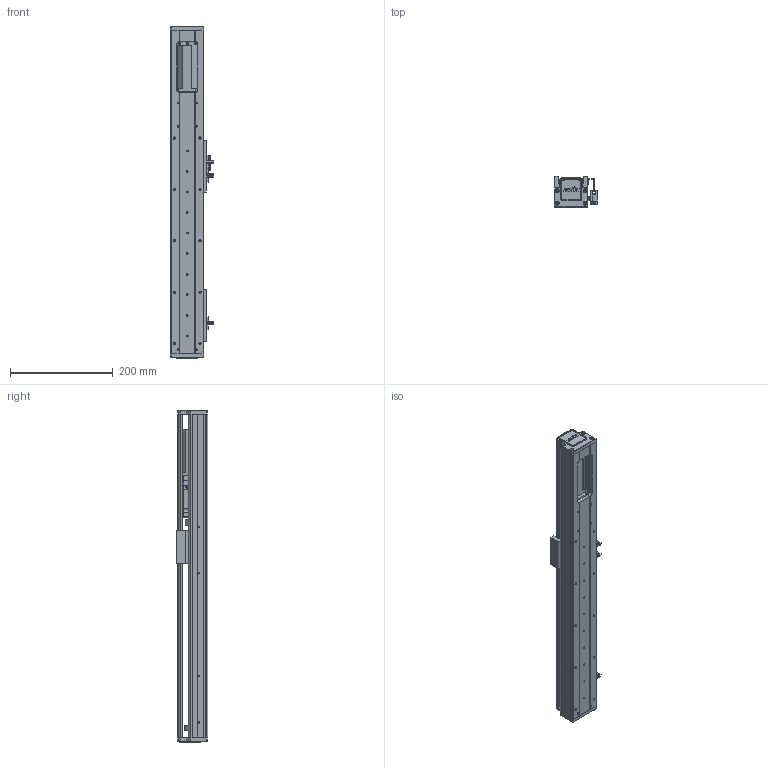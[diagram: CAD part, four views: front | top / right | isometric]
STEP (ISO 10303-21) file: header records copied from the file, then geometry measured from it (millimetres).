
FILE_DESCRIPTION (( 'STEP AP203' ), '1' );
FILE_NAME ('RY60-L1210-300-IK.SLDASM_300.step', '2021-02-22T05:11:52', ( '盈信电脑' ), ( '东莞市道滘镇水果街19号' ), 'SwSTEP 2.0', 'SolidWorks 2012', '' );
FILE_SCHEMA (( 'CONFIG_CONTROL_DESIGN' ));
Length unit declared in the file: millimetre
Products named in the file (12): RY60-L1210-300-IK.SLDASM_300; RY60-内置电机板100W（m3）; 滅袉蝶18-10; RY60綴裔啣; 覜茼ん672; 侂狟100W; RY80俋离覜茼え; RY60臏賑輸; RY60-300倰第裔啣-IK; RY60萇儂傷盓傅釱; 672嫖萇羲壽假蚾釱; RY60-300倰第菁釱-IK
Assembly tree (18 placements, depth 2):
  RY60-L1210-300-IK.SLDASM_300
    RY60-300倰第菁釱-IK
    RY60臏賑輸
    RY60-300倰第裔啣-IK
    RY60萇儂傷盓傅釱
    672嫖萇羲壽假蚾釱  x2
    RY60綴裔啣  x2
    覜茼ん672  x3
    RY80俋离覜茼え
    侂狟100W
    滅袉蝶18-10  x4
    RY60-内置电机板100W（m3）
Bounding box: 83.7 x 61 x 646 mm (x, y, z)
Volume: 876044.4 mm3; surface area: 420402.9 mm2
Topology: 18 solids, 18 shells, 1475 faces, 4116 edges, 2665 vertices
Faces by surface type: plane 793, cylinder 574, cone 92, bspline 16
Entity records: 39641 total; most frequent: CARTESIAN_POINT 9408, ORIENTED_EDGE 6140, DIRECTION 5861, EDGE_CURVE 3070, VERTEX_POINT 2011, AXIS2_PLACEMENT_3D 1978, LINE 1905, VECTOR 1905
